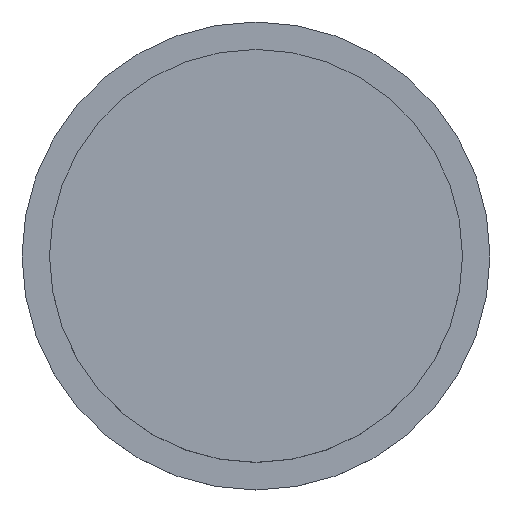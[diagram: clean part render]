
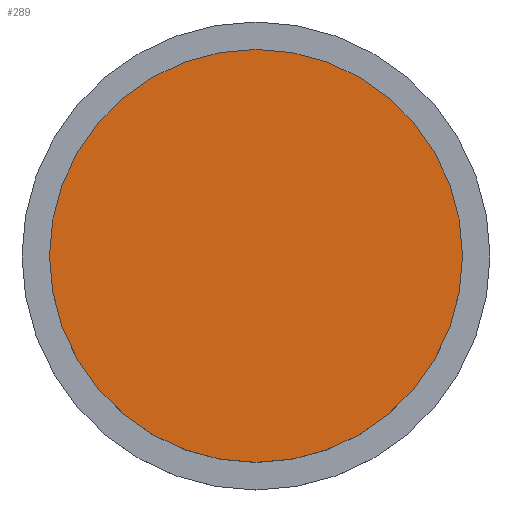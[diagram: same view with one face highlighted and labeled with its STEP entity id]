
A CAD part, top view. The second image highlights one B-rep face of the part: STEP entity #289.
In plain terms, the highlighted planar face has unit normal (0, 0, 1).
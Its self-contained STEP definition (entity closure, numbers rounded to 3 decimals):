
#168 = CYLINDRICAL_SURFACE('',#169,10.5);
#169 = AXIS2_PLACEMENT_3D('',#170,#171,#172);
#170 = CARTESIAN_POINT('',(0.,-36.,25.3));
#171 = DIRECTION('',(-0.,-0.,-1.));
#172 = DIRECTION('',(1.,0.,0.));
#240 = VERTEX_POINT('',#241);
#241 = CARTESIAN_POINT('',(10.5,-36.,28.4));
#262 = EDGE_CURVE('',#240,#240,#263,.T.);
#263 = SURFACE_CURVE('',#264,(#269,#276),.PCURVE_S1.);
#264 = CIRCLE('',#265,10.5);
#265 = AXIS2_PLACEMENT_3D('',#266,#267,#268);
#266 = CARTESIAN_POINT('',(0.,-36.,28.4));
#267 = DIRECTION('',(0.,0.,1.));
#268 = DIRECTION('',(1.,0.,-0.));
#269 = PCURVE('',#168,#270);
#270 = DEFINITIONAL_REPRESENTATION('',(#271),#275);
#271 = LINE('',#272,#273);
#272 = CARTESIAN_POINT('',(6.283,-3.1));
#273 = VECTOR('',#274,1.);
#274 = DIRECTION('',(-1.,0.));
#275 = ( GEOMETRIC_REPRESENTATION_CONTEXT(2) 
PARAMETRIC_REPRESENTATION_CONTEXT() REPRESENTATION_CONTEXT('2D SPACE',''
  ) );
#276 = PCURVE('',#277,#282);
#277 = PLANE('',#278);
#278 = AXIS2_PLACEMENT_3D('',#279,#280,#281);
#279 = CARTESIAN_POINT('',(0.,-36.,28.4));
#280 = DIRECTION('',(0.,0.,1.));
#281 = DIRECTION('',(1.,0.,-0.));
#282 = DEFINITIONAL_REPRESENTATION('',(#283),#287);
#283 = CIRCLE('',#284,10.5);
#284 = AXIS2_PLACEMENT_2D('',#285,#286);
#285 = CARTESIAN_POINT('',(0.,0.));
#286 = DIRECTION('',(1.,0.));
#287 = ( GEOMETRIC_REPRESENTATION_CONTEXT(2) 
PARAMETRIC_REPRESENTATION_CONTEXT() REPRESENTATION_CONTEXT('2D SPACE',''
  ) );
#289 = ADVANCED_FACE('',(#290),#277,.T.);
#290 = FACE_BOUND('',#291,.T.);
#291 = EDGE_LOOP('',(#292));
#292 = ORIENTED_EDGE('',*,*,#262,.T.);
